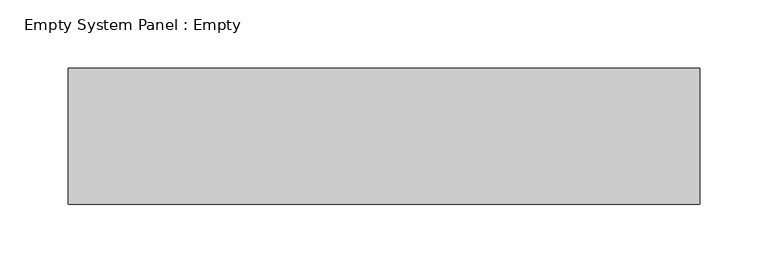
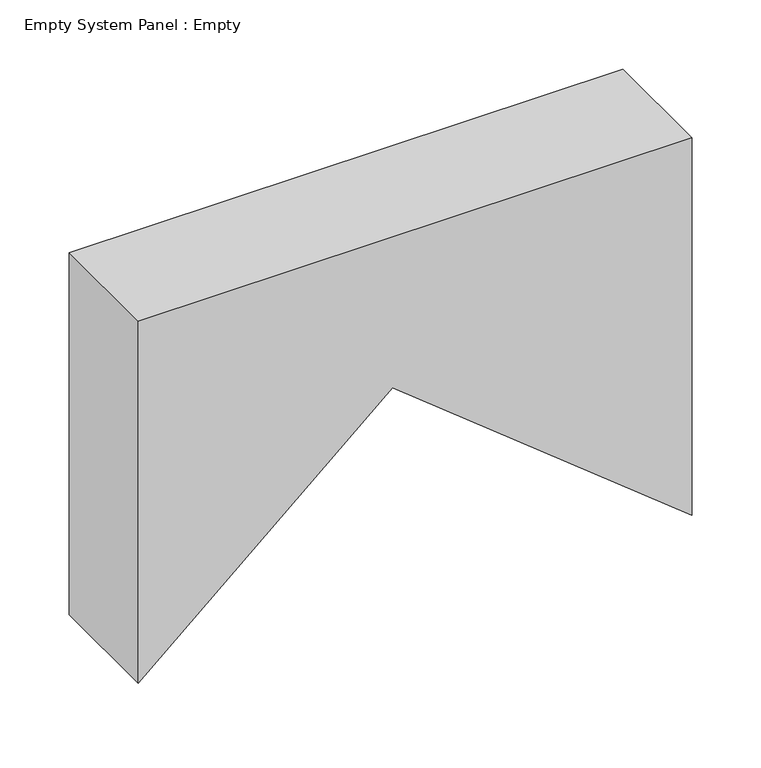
"""IFC4 building model written with IfcOpenShell, lengths in millimetres: plate geometry, Empty System Panel : Empty."""

from ifc_helpers import new_model, si_unit, frame, origin, place, context, project, spatial, polyline, outline, extrude, source, transform, mapped, element, save


def empty_system_panel_empty_2354e24e(model_context):
    return source(origin(), model_context, "Body", "SweptSolid", [
        extrude(outline(polyline([(200.7390338, -18.7174937), (0.0, 231.7391304), (334.1609698, 231.7391304), (334.1609698, -231.7391304), (13.7433573, -231.7391304), (200.7390338, -18.7174937)])), frame((0.0, -50.0, 0.0), z_axis=(0.0, 1.0, 0.0), x_axis=(0.0, 0.0, 1.0)), (0.0, 0.0, 1.0), 100.0),
    ])


if __name__ == "__main__":
    model = new_model("IFC4")
    model_context = context("Model", 3, world=origin())
    ifc_project = project(units=[si_unit("LENGTHUNIT", "METRE", prefix="MILLI")], contexts=[model_context])
    site = spatial("IfcSite", under=ifc_project)
    building = spatial("IfcBuilding", under=site)
    placement = place(None, origin())
    empty_system_panel_empty_shape = empty_system_panel_empty_2354e24e(model_context)
    element("IfcPlate", 1, ObjectType="Empty System Panel : Empty", at=placement, inside=building, context=model_context, shape_type="MappedRepresentation", body=[
        mapped(empty_system_panel_empty_shape, transform((0.0, 0.0, 0.0), x_axis=(1.0, 0.0, 0.0), y_axis=(0.0, 1.0, 0.0), z_axis=(0.0, 0.0, 1.0))),
    ])
    save(model, "model.ifc")
